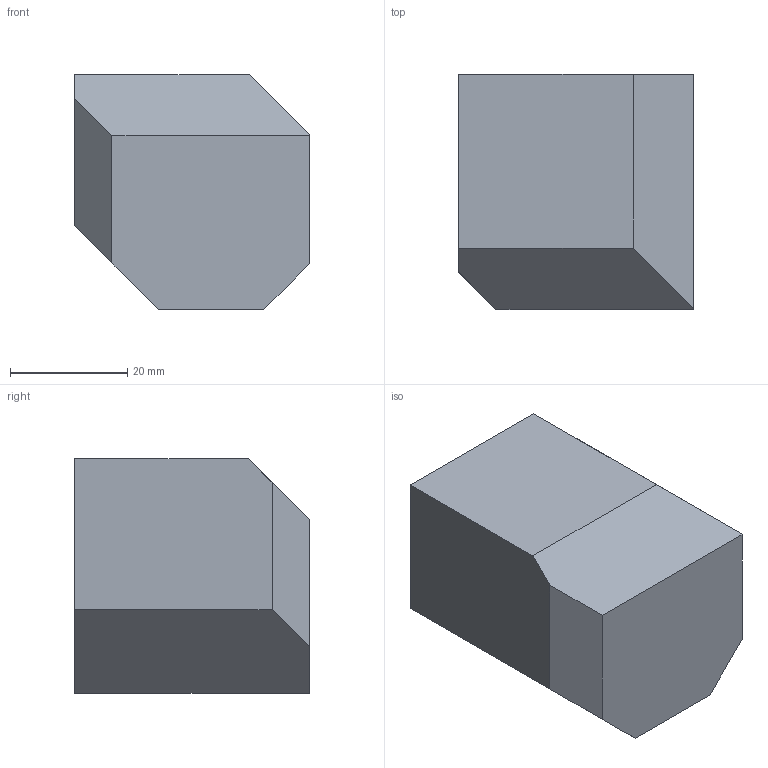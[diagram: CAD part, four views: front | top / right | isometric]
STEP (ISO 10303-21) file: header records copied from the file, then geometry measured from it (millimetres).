
FILE_DESCRIPTION(('Open CASCADE Model'),'2;1');
FILE_NAME('Open CASCADE Shape Model','2026-10-26T18:47:05',('Author'),( 'Open CASCADE'),'Open CASCADE STEP processor 7.9','Open CASCADE 7.9' ,'Unknown');
FILE_SCHEMA(('AUTOMOTIVE_DESIGN { 1 0 10303 214 1 1 1 1 }'));
Length unit declared in the file: millimetre
Products named in the file (1): Open CASCADE STEP translator 7.9 1
Bounding box: 40 x 40 x 40 mm (x, y, z)
Volume: 54429.7 mm3; surface area: 8087.8 mm2
Topology: 1 solids, 1 shells, 11 faces, 27 edges, 18 vertices
Faces by surface type: plane 11
Entity records: 682 total; most frequent: CARTESIAN_POINT 111, DIRECTION 105, LINE 81, VECTOR 81, ORIENTED_EDGE 54, PCURVE 54, DEFINITIONAL_REPRESENTATION 54, EDGE_CURVE 27
